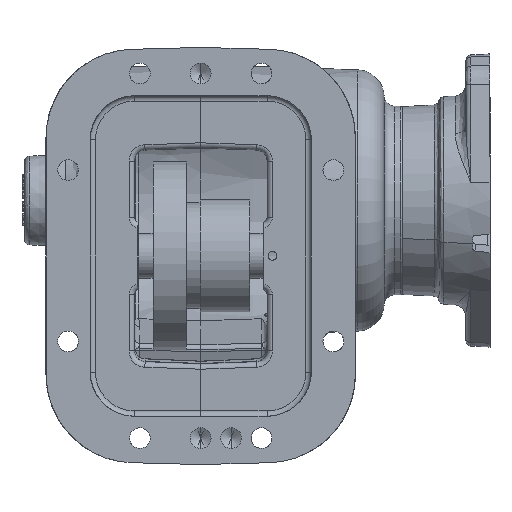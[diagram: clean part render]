
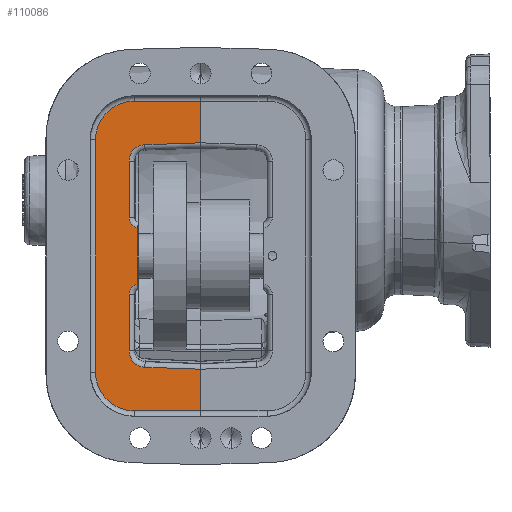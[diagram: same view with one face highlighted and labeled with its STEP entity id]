
A CAD part, front view. The second image highlights one B-rep face of the part: STEP entity #110086.
In plain terms, the highlighted planar face has unit normal (0, -1, 0).
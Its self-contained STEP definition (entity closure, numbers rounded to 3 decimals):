
#5023 = CARTESIAN_POINT ( 'NONE',  ( 22.99, -70.944, 25.709 ) ) ;
#5059 = CARTESIAN_POINT ( 'NONE',  ( -37.462, -70.944, -105.992 ) ) ;
#5061 = CARTESIAN_POINT ( 'NONE',  ( 22.99, -70.944, -128.344 ) ) ;
#5063 = CARTESIAN_POINT ( 'NONE',  ( -15.11, -70.944, -128.344 ) ) ;
#5067 = CARTESIAN_POINT ( 'NONE',  ( -37.462, -70.944, 27.358 ) ) ;
#5072 = CARTESIAN_POINT ( 'NONE',  ( -15.11, -70.944, 49.71 ) ) ;
#5077 = CARTESIAN_POINT ( 'NONE',  ( 22.99, -70.944, 49.71 ) ) ;
#19549 = CARTESIAN_POINT ( 'NONE',  ( -65.91, -70.944, 78.158 ) ) ;
#19562 = PLANE ( 'NONE',  #65953 ) ;
#19628 = DIRECTION ( 'NONE',  ( 0., 1., 0. ) ) ;
#19631 = DIRECTION ( 'NONE',  ( 0., 0., 1. ) ) ;
#28671 = CARTESIAN_POINT ( 'NONE',  ( 22.99, -70.944, 78.158 ) ) ;
#28673 = CARTESIAN_POINT ( 'NONE',  ( 22.99, -70.944, 78.158 ) ) ;
#28676 = DIRECTION ( 'NONE',  ( 0., 0., -1. ) ) ;
#28681 = DIRECTION ( 'NONE',  ( 0., 0., -1. ) ) ;
#44249 = DIRECTION ( 'NONE',  ( -0.999, 0., 0.035 ) ) ;
#44252 = CARTESIAN_POINT ( 'NONE',  ( -9.088, -70.944, -103.222 ) ) ;
#44270 = DIRECTION ( 'NONE',  ( 0., 0., 1. ) ) ;
#44271 = CARTESIAN_POINT ( 'NONE',  ( -8.76, -70.944, -93.83 ) ) ;
#44272 = DIRECTION ( 'NONE',  ( 0., 1., 0. ) ) ;
#44273 = DIRECTION ( 'NONE',  ( 0., 0., 1. ) ) ;
#44283 = CARTESIAN_POINT ( 'NONE',  ( -18.158, -70.944, -61.479 ) ) ;
#44302 = CARTESIAN_POINT ( 'NONE',  ( -12.062, -70.944, -61.479 ) ) ;
#44303 = DIRECTION ( 'NONE',  ( 0., 1., 0. ) ) ;
#44304 = DIRECTION ( 'NONE',  ( 0., 0., 1. ) ) ;
#44315 = DIRECTION ( 'NONE',  ( 0., 0., 1. ) ) ;
#44319 = CARTESIAN_POINT ( 'NONE',  ( -13.332, -70.944, -23.117 ) ) ;
#44341 = DIRECTION ( 'NONE',  ( 0., 0., 1. ) ) ;
#44346 = CARTESIAN_POINT ( 'NONE',  ( -12.062, -70.944, -17.155 ) ) ;
#44347 = DIRECTION ( 'NONE',  ( 0., 1., 0. ) ) ;
#44348 = DIRECTION ( 'NONE',  ( 0., 0., 1. ) ) ;
#44355 = CARTESIAN_POINT ( 'NONE',  ( -18.158, -70.944, 15.197 ) ) ;
#44375 = CARTESIAN_POINT ( 'NONE',  ( -8.76, -70.944, 15.197 ) ) ;
#44376 = DIRECTION ( 'NONE',  ( 0., 1., 0. ) ) ;
#44377 = DIRECTION ( 'NONE',  ( 0., 0., 1. ) ) ;
#44391 = CARTESIAN_POINT ( 'NONE',  ( 22.884, -70.944, 25.706 ) ) ;
#44392 = DIRECTION ( 'NONE',  ( 0.999, 0., 0.035 ) ) ;
#48361 = EDGE_LOOP ( 'NONE', ( #76248, #76253, #76256, #76258, #76262, #76265, #76268, #76272, #76275, #76278, #76281, #76284, #76288, #76293, #76295, #76298 ) ) ;
#53348 = VERTEX_POINT ( 'NONE', #104130 ) ;
#53350 = VERTEX_POINT ( 'NONE', #104134 ) ;
#53352 = VERTEX_POINT ( 'NONE', #104136 ) ;
#53354 = VERTEX_POINT ( 'NONE', #104138 ) ;
#53365 = VERTEX_POINT ( 'NONE', #104160 ) ;
#53368 = VERTEX_POINT ( 'NONE', #104166 ) ;
#53370 = VERTEX_POINT ( 'NONE', #104170 ) ;
#53374 = VERTEX_POINT ( 'NONE', #104178 ) ;
#53376 = VERTEX_POINT ( 'NONE', #104182 ) ;
#53385 = VERTEX_POINT ( 'NONE', #5023 ) ;
#53421 = VERTEX_POINT ( 'NONE', #5059 ) ;
#53423 = VERTEX_POINT ( 'NONE', #5061 ) ;
#53425 = VERTEX_POINT ( 'NONE', #5063 ) ;
#53429 = VERTEX_POINT ( 'NONE', #5067 ) ;
#53434 = VERTEX_POINT ( 'NONE', #5072 ) ;
#53439 = VERTEX_POINT ( 'NONE', #5077 ) ;
#63595 = DIRECTION ( 'NONE',  ( 1., 0., 0. ) ) ;
#63598 = CARTESIAN_POINT ( 'NONE',  ( -15.11, -70.944, -105.992 ) ) ;
#63600 = DIRECTION ( 'NONE',  ( 0., -1., 0. ) ) ;
#63602 = DIRECTION ( 'NONE',  ( 0., 0., 1. ) ) ;
#63605 = CARTESIAN_POINT ( 'NONE',  ( 22.99, -70.944, -128.344 ) ) ;
#63632 = CARTESIAN_POINT ( 'NONE',  ( -37.462, -70.944, -105.992 ) ) ;
#63635 = DIRECTION ( 'NONE',  ( 0., 0., -1. ) ) ;
#63672 = CARTESIAN_POINT ( 'NONE',  ( -15.11, -70.944, 27.358 ) ) ;
#63674 = DIRECTION ( 'NONE',  ( 0., -1., 0. ) ) ;
#63676 = DIRECTION ( 'NONE',  ( 0., 0., 1. ) ) ;
#63710 = CARTESIAN_POINT ( 'NONE',  ( -15.11, -70.944, 49.71 ) ) ;
#63713 = DIRECTION ( 'NONE',  ( -1., 0., 0. ) ) ;
#65953 = AXIS2_PLACEMENT_3D ( 'NONE', #19549, #19628, #19631 ) ;
#72488 = EDGE_CURVE ( 'NONE', #53350, #53348, #80506, .T. ) ;
#72494 = EDGE_CURVE ( 'NONE', #53348, #53352, #80514, .T. ) ;
#72500 = EDGE_CURVE ( 'NONE', #53352, #53354, #80519, .T. ) ;
#72506 = EDGE_CURVE ( 'NONE', #53354, #53365, #80531, .T. ) ;
#72513 = EDGE_CURVE ( 'NONE', #53365, #53368, #80539, .T. ) ;
#72521 = EDGE_CURVE ( 'NONE', #53368, #53374, #80546, .T. ) ;
#72526 = EDGE_CURVE ( 'NONE', #53374, #53370, #80551, .T. ) ;
#72532 = EDGE_CURVE ( 'NONE', #53370, #53376, #80562, .T. ) ;
#72538 = EDGE_CURVE ( 'NONE', #53376, #53385, #80571, .T. ) ;
#72601 = EDGE_CURVE ( 'NONE', #53421, #53425, #80617, .T. ) ;
#72603 = EDGE_CURVE ( 'NONE', #53425, #53423, #80615, .T. ) ;
#72607 = EDGE_CURVE ( 'NONE', #53429, #53421, #80625, .T. ) ;
#72613 = EDGE_CURVE ( 'NONE', #53434, #53429, #80635, .T. ) ;
#72619 = EDGE_CURVE ( 'NONE', #53439, #53434, #80641, .T. ) ;
#76248 = ORIENTED_EDGE ( 'NONE', *, *, #76384, .F. ) ;
#76253 = ORIENTED_EDGE ( 'NONE', *, *, #72488, .T. ) ;
#76256 = ORIENTED_EDGE ( 'NONE', *, *, #72494, .T. ) ;
#76258 = ORIENTED_EDGE ( 'NONE', *, *, #72500, .T. ) ;
#76262 = ORIENTED_EDGE ( 'NONE', *, *, #72506, .T. ) ;
#76265 = ORIENTED_EDGE ( 'NONE', *, *, #72513, .T. ) ;
#76268 = ORIENTED_EDGE ( 'NONE', *, *, #72521, .T. ) ;
#76272 = ORIENTED_EDGE ( 'NONE', *, *, #72526, .T. ) ;
#76275 = ORIENTED_EDGE ( 'NONE', *, *, #72532, .T. ) ;
#76278 = ORIENTED_EDGE ( 'NONE', *, *, #72538, .T. ) ;
#76281 = ORIENTED_EDGE ( 'NONE', *, *, #76387, .F. ) ;
#76284 = ORIENTED_EDGE ( 'NONE', *, *, #72619, .T. ) ;
#76288 = ORIENTED_EDGE ( 'NONE', *, *, #72613, .T. ) ;
#76293 = ORIENTED_EDGE ( 'NONE', *, *, #72607, .T. ) ;
#76295 = ORIENTED_EDGE ( 'NONE', *, *, #72601, .T. ) ;
#76298 = ORIENTED_EDGE ( 'NONE', *, *, #72603, .T. ) ;
#76384 = EDGE_CURVE ( 'NONE', #53350, #53423, #83696, .T. ) ;
#76387 = EDGE_CURVE ( 'NONE', #53439, #53385, #83701, .T. ) ;
#80506 = LINE ( 'NONE', #44252, #80510 ) ;
#80510 = VECTOR ( 'NONE', #44249, 1000. ) ;
#80514 = CIRCLE ( 'NONE', #92836, 9.398 ) ;
#80519 = LINE ( 'NONE', #44283, #80526 ) ;
#80526 = VECTOR ( 'NONE', #44270, 1000. ) ;
#80531 = CIRCLE ( 'NONE', #92844, 6.096 ) ;
#80539 = LINE ( 'NONE', #44319, #80542 ) ;
#80542 = VECTOR ( 'NONE', #44315, 1000. ) ;
#80546 = CIRCLE ( 'NONE', #92857, 6.096 ) ;
#80551 = LINE ( 'NONE', #44355, #80558 ) ;
#80558 = VECTOR ( 'NONE', #44341, 1000. ) ;
#80562 = CIRCLE ( 'NONE', #92864, 9.398 ) ;
#80571 = LINE ( 'NONE', #44391, #80574 ) ;
#80574 = VECTOR ( 'NONE', #44392, 1000. ) ;
#80615 = LINE ( 'NONE', #63605, #80621 ) ;
#80617 = CIRCLE ( 'NONE', #92893, 22.352 ) ;
#80621 = VECTOR ( 'NONE', #63595, 1000. ) ;
#80625 = LINE ( 'NONE', #63632, #80628 ) ;
#80628 = VECTOR ( 'NONE', #63635, 1000. ) ;
#80635 = CIRCLE ( 'NONE', #92899, 22.352 ) ;
#80641 = LINE ( 'NONE', #63710, #80644 ) ;
#80644 = VECTOR ( 'NONE', #63713, 1000. ) ;
#83696 = LINE ( 'NONE', #28671, #83705 ) ;
#83701 = LINE ( 'NONE', #28673, #83710 ) ;
#83705 = VECTOR ( 'NONE', #28676, 1000. ) ;
#83710 = VECTOR ( 'NONE', #28681, 1000. ) ;
#91978 = FACE_OUTER_BOUND ( 'NONE', #48361, .T. ) ;
#92836 = AXIS2_PLACEMENT_3D ( 'NONE', #44271, #44272, #44273 ) ;
#92844 = AXIS2_PLACEMENT_3D ( 'NONE', #44302, #44303, #44304 ) ;
#92857 = AXIS2_PLACEMENT_3D ( 'NONE', #44346, #44347, #44348 ) ;
#92864 = AXIS2_PLACEMENT_3D ( 'NONE', #44375, #44376, #44377 ) ;
#92893 = AXIS2_PLACEMENT_3D ( 'NONE', #63598, #63600, #63602 ) ;
#92899 = AXIS2_PLACEMENT_3D ( 'NONE', #63672, #63674, #63676 ) ;
#104130 = CARTESIAN_POINT ( 'NONE',  ( -9.088, -70.944, -103.222 ) ) ;
#104134 = CARTESIAN_POINT ( 'NONE',  ( 22.99, -70.944, -104.342 ) ) ;
#104136 = CARTESIAN_POINT ( 'NONE',  ( -18.158, -70.944, -93.83 ) ) ;
#104138 = CARTESIAN_POINT ( 'NONE',  ( -18.158, -70.944, -61.479 ) ) ;
#104160 = CARTESIAN_POINT ( 'NONE',  ( -13.332, -70.944, -55.516 ) ) ;
#104166 = CARTESIAN_POINT ( 'NONE',  ( -13.332, -70.944, -23.117 ) ) ;
#104170 = CARTESIAN_POINT ( 'NONE',  ( -18.158, -70.944, 15.197 ) ) ;
#104178 = CARTESIAN_POINT ( 'NONE',  ( -18.158, -70.944, -17.155 ) ) ;
#104182 = CARTESIAN_POINT ( 'NONE',  ( -9.088, -70.944, 24.589 ) ) ;
#110086 = ADVANCED_FACE ( 'NONE', ( #91978 ), #19562, .F. ) ;
